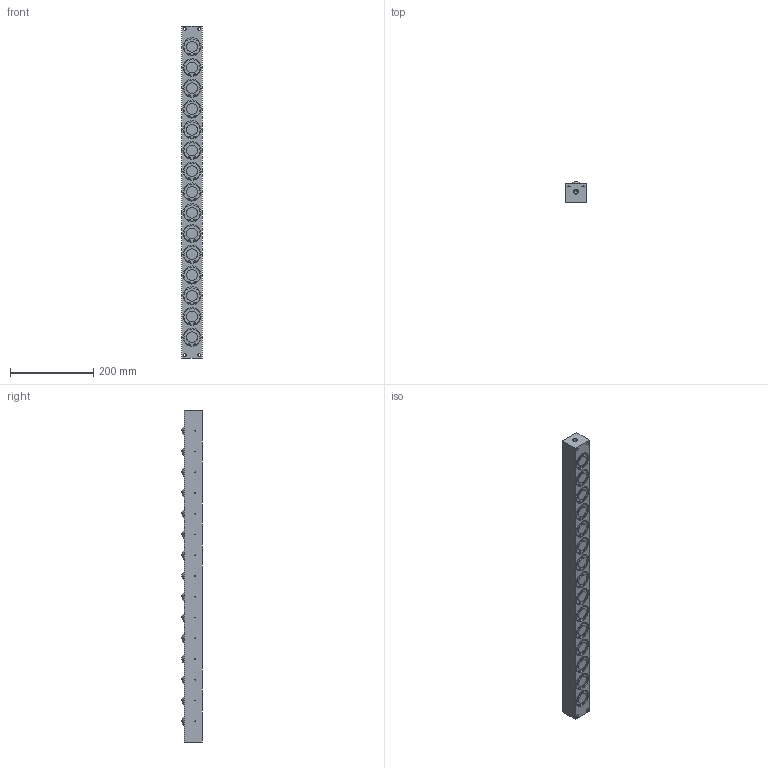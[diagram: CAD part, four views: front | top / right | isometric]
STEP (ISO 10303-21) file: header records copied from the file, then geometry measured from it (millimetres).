
FILE_DESCRIPTION (( 'STEP AP203' ), '1' );
FILE_NAME ('PVL55SW-15.STEP', '2016-01-06T02:22:55', ( '' ), ( '' ), 'SwSTEP 2.0', 'SolidWorks 2013', '' );
FILE_SCHEMA (( 'CONFIG_CONTROL_DESIGN' ));
Length unit declared in the file: millimetre
Products named in the file (1): PVL55SW-15
Bounding box: 49 x 50 x 800 mm (x, y, z)
Volume: 1693635.1 mm3; surface area: 198839.5 mm2
Topology: 2 solids, 2 shells, 723 faces, 1685 edges, 1075 vertices
Faces by surface type: cylinder 442, plane 185, cone 66, sphere 30
Entity records: 20708 total; most frequent: DIRECTION 4047, CARTESIAN_POINT 3420, ORIENTED_EDGE 3242, AXIS2_PLACEMENT_3D 1702, EDGE_CURVE 1621, VERTEX_POINT 1075, CIRCLE 978, EDGE_LOOP 904
